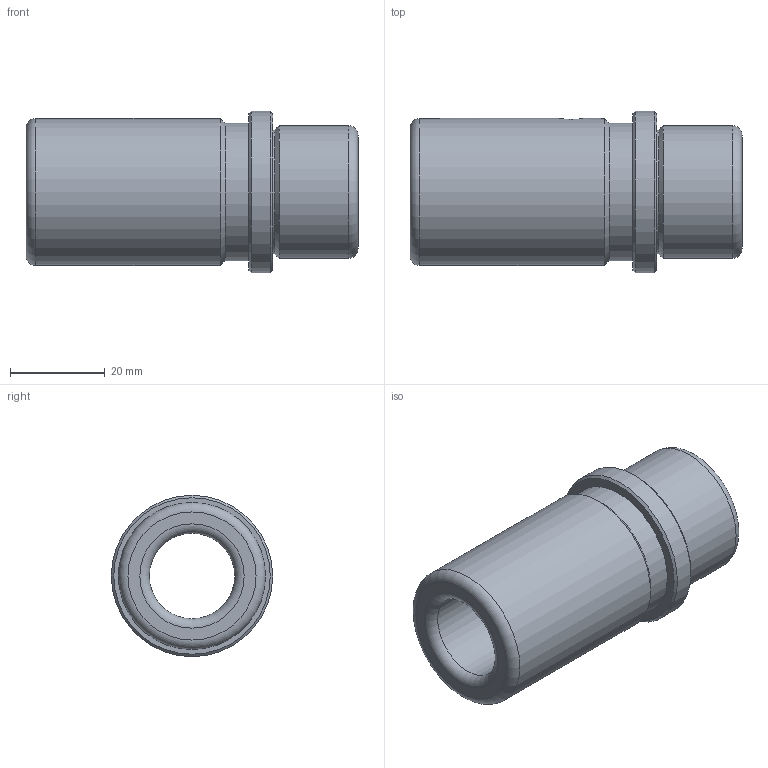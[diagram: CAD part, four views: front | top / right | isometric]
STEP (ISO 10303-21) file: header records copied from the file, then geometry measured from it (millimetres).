
FILE_DESCRIPTION( ( 'STEP AP214' ), '1' );
FILE_NAME( 'p:/temp/worker_30/temp/exporttempdir_5852_178_YBdq6/format_0/WZ - 4055 18 x 70.stp', '2020-12-04T19:45:54', ( 'License CC BY-ND 4.0' ), ( 'CADENAS' ), ' ', 'PARTsolutions', ' ' );
FILE_SCHEMA( ( 'AUTOMOTIVE_DESIGN { 1 0 10303 214 1 1 1 1 }' ) );
Length unit declared in the file: millimetre
Products named in the file (1): _WZ - 4055 18 x 70
Bounding box: 70 x 34 x 34 mm (x, y, z)
Volume: 32112.5 mm3; surface area: 12037.4 mm2
Topology: 1 solids, 1 shells, 21 faces, 38 edges, 22 vertices
Faces by surface type: cylinder 7, cone 5, plane 5, torus 4
Full cylindrical faces by diameter (mm): 4.917 x1, 18 x1, 26 x1, 28 x1, 29 x1, 31 x1, 34 x1
Entity records: 736 total; most frequent: CARTESIAN_POINT 182, DIRECTION 84, EDGE_LOOP 44, ORIENTED_EDGE 44, AXIS2_PLACEMENT_3D 42, FACE_OUTER_BOUND 32, EDGE_CURVE 22, VERTEX_POINT 22
